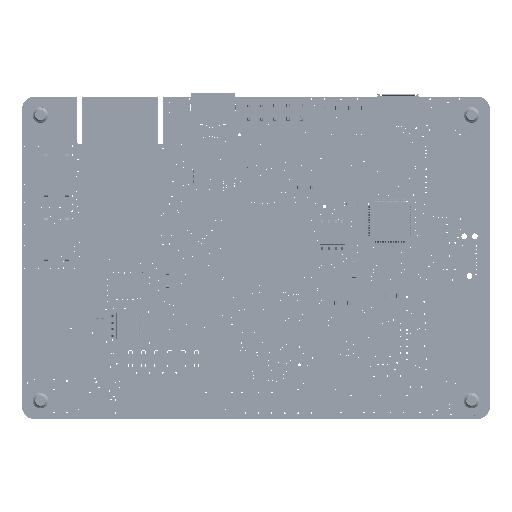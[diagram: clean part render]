
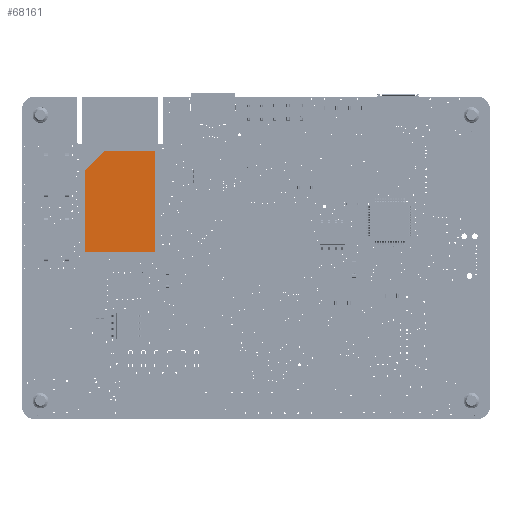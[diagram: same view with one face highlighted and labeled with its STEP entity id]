
A CAD part, top view. The second image highlights one B-rep face of the part: STEP entity #68161.
In plain terms, the highlighted planar face has unit normal (0, 0, 1).
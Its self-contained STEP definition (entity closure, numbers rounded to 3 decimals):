
#68000 = VERTEX_POINT('',#68001);
#68001 = CARTESIAN_POINT('',(-6.731,-9.69,1.8));
#68007 = EDGE_CURVE('',#68000,#68008,#68010,.T.);
#68008 = VERTEX_POINT('',#68009);
#68009 = CARTESIAN_POINT('',(-6.731,5.982,1.8));
#68010 = LINE('',#68011,#68012);
#68011 = CARTESIAN_POINT('',(-6.731,-9.69,1.8));
#68012 = VECTOR('',#68013,1.);
#68013 = DIRECTION('',(0.,1.,0.));
#68038 = EDGE_CURVE('',#68008,#68039,#68041,.T.);
#68039 = VERTEX_POINT('',#68040);
#68040 = CARTESIAN_POINT('',(-3.023,9.69,1.8));
#68041 = LINE('',#68042,#68043);
#68042 = CARTESIAN_POINT('',(-6.731,5.982,1.8));
#68043 = VECTOR('',#68044,1.);
#68044 = DIRECTION('',(0.707,0.707,0.));
#68069 = EDGE_CURVE('',#68039,#68070,#68072,.T.);
#68070 = VERTEX_POINT('',#68071);
#68071 = CARTESIAN_POINT('',(6.68,9.69,1.8));
#68072 = LINE('',#68073,#68074);
#68073 = CARTESIAN_POINT('',(-3.023,9.69,1.8));
#68074 = VECTOR('',#68075,1.);
#68075 = DIRECTION('',(1.,0.,0.));
#68100 = EDGE_CURVE('',#68070,#68101,#68103,.T.);
#68101 = VERTEX_POINT('',#68102);
#68102 = CARTESIAN_POINT('',(6.731,-9.69,1.8));
#68103 = LINE('',#68104,#68105);
#68104 = CARTESIAN_POINT('',(6.68,9.69,1.8));
#68105 = VECTOR('',#68106,1.);
#68106 = DIRECTION('',(0.003,-1.,0.));
#68131 = EDGE_CURVE('',#68101,#68000,#68132,.T.);
#68132 = LINE('',#68133,#68134);
#68133 = CARTESIAN_POINT('',(6.731,-9.69,1.8));
#68134 = VECTOR('',#68135,1.);
#68135 = DIRECTION('',(-1.,0.,0.));
#68161 = ADVANCED_FACE('',(#68162),#68169,.T.);
#68162 = FACE_BOUND('',#68163,.F.);
#68163 = EDGE_LOOP('',(#68164,#68165,#68166,#68167,#68168));
#68164 = ORIENTED_EDGE('',*,*,#68007,.T.);
#68165 = ORIENTED_EDGE('',*,*,#68038,.T.);
#68166 = ORIENTED_EDGE('',*,*,#68069,.T.);
#68167 = ORIENTED_EDGE('',*,*,#68100,.T.);
#68168 = ORIENTED_EDGE('',*,*,#68131,.T.);
#68169 = PLANE('',#68170);
#68170 = AXIS2_PLACEMENT_3D('',#68171,#68172,#68173);
#68171 = CARTESIAN_POINT('',(-6.731,-9.69,1.8));
#68172 = DIRECTION('',(0.,0.,1.));
#68173 = DIRECTION('',(1.,0.,0.));
